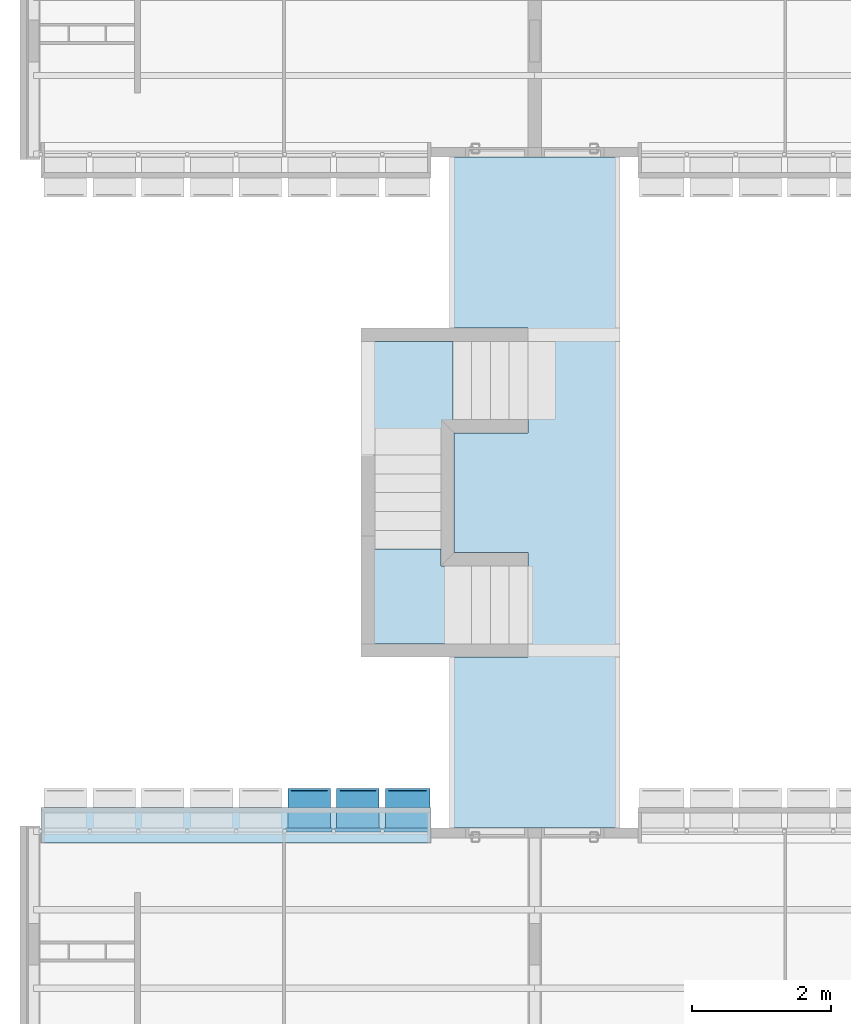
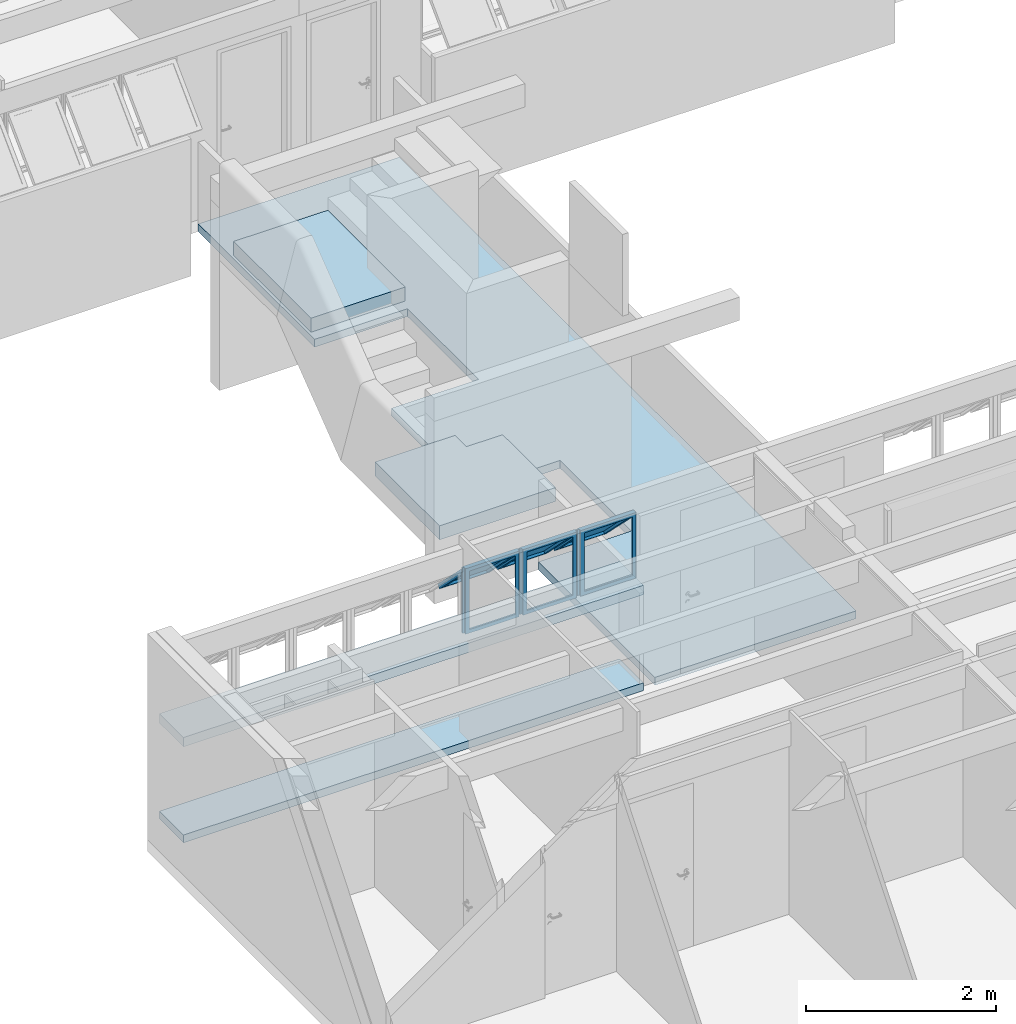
# One storey, part 8 of 41: 5 slabs, 3 plates, 1 element without a shape of its own.
"""IFC4 building model written with IfcOpenShell, lengths in millimetres."""

from ifc_helpers import new_model, entity, si_unit, converted_unit, derived_unit, direction, frame, origin_with_axes, place, context, subcontext, project, spatial, line, indexed_curve, outline, extrude, polygons, source, transform, mapped, material, layer, layer_set, layer_usage, constituent, constituent_set, type_object, element, aggregate, save


model = new_model("IFC4")

# Units and contexts
model_context = context("Model", 3, precision=0.01, world=origin_with_axes(), true_north=direction((0.0, 1.0)))
body_context = subcontext(model_context, "Body", "Model", "MODEL_VIEW")
ifc_project = project(units=[si_unit("LENGTHUNIT", "METRE", prefix="MILLI"), si_unit("AREAUNIT", "SQUARE_METRE"), si_unit("VOLUMEUNIT", "CUBIC_METRE"), converted_unit("PLANEANGLEUNIT", "DEGREE", entity("IfcPlaneAngleMeasure", 0.0174532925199), si_unit("PLANEANGLEUNIT", "RADIAN"), dimensions=[0, 0, 0, 0, 0, 0, 0]), converted_unit("TIMEUNIT", "Year", entity("IfcTimeMeasure", 31556926.0), si_unit("TIMEUNIT", "SECOND"), dimensions=[0, 0, 1, 0, 0, 0, 0]), si_unit("MASSUNIT", "GRAM", prefix="KILO"), si_unit("THERMODYNAMICTEMPERATUREUNIT", "DEGREE_CELSIUS"), si_unit("LUMINOUSINTENSITYUNIT", "LUMEN"), si_unit("ENERGYUNIT", "JOULE", prefix="MEGA"), derived_unit("THERMALCONDUCTANCEUNIT", [(si_unit("POWERUNIT", "WATT"), 1), (si_unit("LENGTHUNIT", "METRE"), -1), (si_unit("THERMODYNAMICTEMPERATUREUNIT", "KELVIN"), -1)]), derived_unit("SPECIFICHEATCAPACITYUNIT", [(si_unit("ENERGYUNIT", "JOULE"), 1), (si_unit("MASSUNIT", "GRAM", prefix="KILO"), -1), (si_unit("THERMODYNAMICTEMPERATUREUNIT", "KELVIN"), -1)]), derived_unit("MASSDENSITYUNIT", [(si_unit("MASSUNIT", "GRAM", prefix="KILO"), 1), (si_unit("VOLUMEUNIT", "CUBIC_METRE"), -1)])], contexts=[model_context])

# Site, building, storey
site_placement = place(None, origin_with_axes())
site = spatial("IfcSite", under=ifc_project, at=site_placement, Name="Local", CompositionType="ELEMENT")
building_placement = place(site_placement, origin_with_axes())
building = spatial("IfcBuilding", under=site, at=building_placement, Name="Construção", CompositionType="ELEMENT")
storey_placement = place(building_placement, frame((0.0, 0.0, 2650.0), z_axis=(0.0, 0.0, 1.0), x_axis=(1.0, 0.0, 0.0)))
storey = spatial("IfcBuildingStorey", under=building, at=storey_placement, Name="Segundo Pavimento", CompositionType="ELEMENT", Elevation=2650.0)

# Slabs
ifc_material_1 = material(Name="Concreto Armado Moldado in Loco - Estrutural")
ifc_layer_1 = layer(ifc_material_1, 180.0, ventilated="UNKNOWN", Name="Concreto Armado Moldado in Loco - Estrutural")
ifc_layer_set_1 = layer_set([ifc_layer_1], Name="Concreto Armado Moldado in Loco - Estrutural 180")
ifc_layer_usage_1 = layer_usage(ifc_layer_set_1, "AXIS3", "NEGATIVE", 180.0)
slab_type_1 = type_object("IfcSlabType", Name="Concreto Armado Moldado in Loco - Estrutural 180", PredefinedType="FLOOR")
slab_1_placement = place(storey_placement, frame((5065.0, 13620.0, 1710.57075871), z_axis=(0.0, 0.0, 1.0), x_axis=(1.0, 0.0, 0.0)))
element("IfcSlab", 1, at=slab_1_placement, inside=storey, type_object=slab_type_1, material=ifc_layer_usage_1, Name="CIRC2-LAJE-005", PredefinedType="FLOOR", context=body_context, shape_type="SweptSolid", body=[
    extrude(outline(indexed_curve([(0.0, 0.0), (1145.0, 0.0), (1145.0, 1630.0), (0.0, 1630.0)], segments=[line(1, 2, 3, 4, 1)])), frame((0.0, 0.0, -180.0), z_axis=(0.0, 0.0, 1.0), x_axis=(1.0, 0.0, 0.0)), (0.0, 0.0, 1.0), 180.0),
])
ifc_layer_usage_2 = layer_usage(ifc_layer_set_1, "AXIS3", "NEGATIVE", 180.0)
slab_2_placement = place(storey_placement, frame((5065.0, 10910.0, 680.0), z_axis=(0.0, 0.0, 1.0), x_axis=(1.0, 0.0, 0.0)))
element("IfcSlab", 2, at=slab_2_placement, inside=storey, type_object=slab_type_1, material=ifc_layer_usage_2, Name="CIRC2-LAJE-006", PredefinedType="FLOOR", context=body_context, shape_type="SweptSolid", body=[
    extrude(outline(indexed_curve([(0.0, 0.0), (1415.0, 0.0), (1415.0, 1120.0), (975.0, 1120.0), (975.0, 1360.0), (0.0, 1360.0)], segments=[line(1, 2, 3, 4, 5, 6, 1)])), frame((0.0, 0.0, -180.0), z_axis=(0.0, 0.0, 1.0), x_axis=(1.0, 0.0, 0.0)), (0.0, 0.0, 1.0), 180.0),
])
ifc_layer_2 = layer(ifc_material_1, 120.0, ventilated="UNKNOWN", Name="Concreto Armado Moldado in Loco - Estrutural")
ifc_layer_set_2 = layer_set([ifc_layer_2], Name="Concreto Armado Moldado in Loco - Estrutural 120")
ifc_layer_usage_3 = layer_usage(ifc_layer_set_2, "AXIS3", "NEGATIVE", 120.0)
slab_type_2 = type_object("IfcSlabType", Name="Concreto Armado Moldado in Loco - Estrutural 120", PredefinedType="FLOOR")
slab_3_placement = place(storey_placement, frame((300.0, 8564.99999866, 1355.0), z_axis=(0.0, 0.0, 1.0), x_axis=(1.0, 0.0, 0.0)))
element("IfcSlab", 3, at=slab_3_placement, inside=storey, type_object=slab_type_2, material=ifc_layer_usage_3, Name="APTO5-LAJE-003", PredefinedType="FLOOR", context=body_context, shape_type="SweptSolid", body=[
    extrude(outline(indexed_curve([(0.0, 0.0), (0.0, -510.0), (5600.0, -510.0), (5600.0, 0.0)], segments=[line(1, 2, 3, 4, 1)])), frame((0.0, 0.0, -120.0), z_axis=(0.0, 0.0, 1.0), x_axis=(1.0, 0.0, 0.0)), (0.0, 0.0, 1.0), 120.0),
])
ifc_layer_3 = layer(ifc_material_1, 100.0, ventilated="UNKNOWN", Name="Concreto Armado Moldado in Loco - Estrutural")
ifc_layer_set_3 = layer_set([ifc_layer_3], Name="Concreto Armado Moldado in Loco - Estrutural 100")
ifc_layer_usage_4 = layer_usage(ifc_layer_set_3, "AXIS3", "NEGATIVE", 100.0)
slab_type_3 = type_object("IfcSlabType", Name="Concreto Armado Moldado in Loco - Estrutural 100", PredefinedType="FLOOR")
slab_4_placement = place(storey_placement, frame((300.0, 8564.99999866, 100.0), z_axis=(0.0, 0.0, 1.0), x_axis=(1.0, 0.0, 0.0)))
element("IfcSlab", 4, at=slab_4_placement, inside=storey, type_object=slab_type_3, material=ifc_layer_usage_4, Name="APTO5-LAJE-004", PredefinedType="FLOOR", context=body_context, shape_type="SweptSolid", body=[
    extrude(outline(indexed_curve([(0.0, 0.0), (0.0, -510.0), (5600.0, -510.0), (5600.0, 0.0)], segments=[line(1, 2, 3, 4, 1)])), frame((0.0, 0.0, -100.0), z_axis=(0.0, 0.0, 1.0), x_axis=(1.0, 0.0, 0.0)), (0.0, 0.0, 1.0), 100.0),
])
ifc_layer_usage_5 = layer_usage(ifc_layer_set_3, "AXIS3", "NEGATIVE", 100.0)
slab_5_placement = place(storey_placement, frame((6229.99993205, 13940.0000635, -150.0), z_axis=(0.0, 0.0, 1.0), x_axis=(1.0, 0.0, 0.0)))
element("IfcSlab", 5, at=slab_5_placement, inside=storey, type_object=slab_type_3, material=ifc_layer_usage_5, Name="CIRC2-LAJE-007", PredefinedType="FLOOR", context=body_context, shape_type="SweptSolid", body=[
    extrude(outline(indexed_curve([(0.0, 0.0), (0.0, -1720.00012696), (1060.0001283, -1720.00012696), (1060.0001283, -3220.00011086), (-69.9999320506, -3220.00011086), (-69.9999320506, -5675.00006348), (2380.00006795, -5675.00006348), (2380.00006795, 3954.99993652), (-69.9999320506, 3954.99993652), (-69.9999320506, 1499.99998391), (1060.0001283, 1499.99998391), (1060.0001283, 1309.99988645), (1060.0001283, 0.0)], segments=[line(1, 2, 3, 4, 5, 6, 7, 8, 9, 10, 11, 12, 13, 1)])), origin_with_axes(), (0.0, 0.0, 1.0), 100.0),
])

# Window, plates
window_type = type_object("IfcWindowType", Name="Tipo de Parede Cortina", PartitioningType="NOTDEFINED", PredefinedType="NOTDEFINED")
window_placement = place(storey_placement, frame((2750.0, 8250.0, 1355.00007107), z_axis=(0.0, 0.0, 1.0), x_axis=(1.0, 0.0, 0.0)))
window = element("IfcWindow", 6, at=window_placement, inside=storey, type_object=window_type, Name="APTO5-JANELA-000", PredefinedType="NOTDEFINED")
ifc_material_2 = material(Name="Alumínio")
ifc_constituent_1 = constituent(ifc_material_2, Name="Alumínio")
ifc_material_3 = material(Name="Vidro")
ifc_constituent_2 = constituent(ifc_material_3, Name="Vidro")
ifc_constituent_set_1 = constituent_set(constituents=[ifc_constituent_1, ifc_constituent_2])
plate_type_1 = type_object("IfcPlateType", Name="Painel Principal 690 x 845 x 20", PredefinedType="CURTAIN_PANEL")
shared_shape_1 = source(origin_with_axes(), body_context, "Body", "Tessellation", [
    polygons([(-25.0000036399, 0.0, -40.0), (-25.0000036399, 0.0, -35.0), (-674.999997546, 0.0, -35.0), (-674.999997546, 0.0, -40.0), (-70.0000036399, 45.0, -40.0), (-70.0000036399, 45.0, -35.0), (-629.999997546, 45.0, -35.0), (-629.999997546, 45.0, -40.0)], [[[1, 2, 3, 4]], [[5, 6, 2, 1]], [[2, 6, 7, 3]], [[4, 3, 7, 8]], [[1, 4, 8, 5]], [[8, 7, 6, 5]]], closed=True),
    polygons([(-674.999997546, 0.0, -40.0), (-674.999997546, 0.0, -35.0), (-674.999997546, 844.999891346, -35.0), (-674.999997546, 844.999891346, -40.0), (-629.999997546, 45.0, -40.0), (-629.999997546, 45.0, -35.0), (-629.999997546, 799.999891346, -35.0), (-629.999997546, 799.999891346, -40.0)], [[[1, 2, 3, 4]], [[5, 6, 2, 1]], [[2, 6, 7, 3]], [[4, 3, 7, 8]], [[1, 4, 8, 5]], [[8, 7, 6, 5]]], closed=True),
    polygons([(-25.0000036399, 844.999891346, -40.0), (-25.0000036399, 844.999891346, -35.0), (-70.0000036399, 799.999891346, -35.0), (-70.0000036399, 799.999891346, -40.0), (-674.999997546, 844.999891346, -40.0), (-674.999997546, 844.999891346, -35.0), (-629.999997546, 799.999891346, -35.0), (-629.999997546, 799.999891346, -40.0)], [[[1, 2, 3, 4]], [[5, 6, 2, 1]], [[2, 6, 7, 3]], [[4, 3, 7, 8]], [[1, 4, 8, 5]], [[8, 7, 6, 5]]], closed=True),
    polygons([(-25.0000036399, 0.0, -40.0), (-25.0000036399, 0.0, -35.0), (-70.0000036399, 45.0, -35.0), (-70.0000036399, 45.0, -40.0), (-25.0000036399, 844.999891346, -40.0), (-25.0000036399, 844.999891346, -35.0), (-70.0000036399, 799.999891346, -35.0), (-70.0000036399, 799.999891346, -40.0)], [[[1, 2, 3, 4]], [[5, 6, 2, 1]], [[2, 6, 7, 3]], [[4, 3, 7, 8]], [[1, 4, 8, 5]], [[8, 7, 6, 5]]], closed=True),
    polygons([(-25.0000036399, 0.0, -35.0), (-25.0000036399, 0.0, 15.0), (-674.999997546, 0.0, 15.0), (-674.999997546, 0.0, -35.0), (-45.0000036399, 20.0, -35.0), (-45.0000036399, 20.0, 15.0), (-654.999997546, 20.0, 15.0), (-654.999997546, 20.0, -35.0)], [[[1, 2, 3, 4]], [[5, 6, 2, 1]], [[2, 6, 7, 3]], [[4, 3, 7, 8]], [[1, 4, 8, 5]], [[8, 7, 6, 5]]], closed=True),
    polygons([(-674.999997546, 0.0, -35.0), (-674.999997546, 0.0, 15.0), (-674.999997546, 844.999891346, 15.0), (-674.999997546, 844.999891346, -35.0), (-654.999997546, 20.0, -35.0), (-654.999997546, 20.0, 15.0), (-654.999997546, 824.999891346, 15.0), (-654.999997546, 824.999891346, -35.0)], [[[1, 2, 3, 4]], [[5, 6, 2, 1]], [[2, 6, 7, 3]], [[4, 3, 7, 8]], [[1, 4, 8, 5]], [[8, 7, 6, 5]]], closed=True),
    polygons([(-25.0000036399, 844.999891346, -35.0), (-25.0000036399, 844.999891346, 15.0), (-45.0000036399, 824.999891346, 15.0), (-45.0000036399, 824.999891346, -35.0), (-674.999997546, 844.999891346, -35.0), (-674.999997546, 844.999891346, 15.0), (-654.999997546, 824.999891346, 15.0), (-654.999997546, 824.999891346, -35.0)], [[[1, 2, 3, 4]], [[5, 6, 2, 1]], [[2, 6, 7, 3]], [[4, 3, 7, 8]], [[1, 4, 8, 5]], [[8, 7, 6, 5]]], closed=True),
    polygons([(-25.0000036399, 0.0, -35.0), (-25.0000036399, 0.0, 15.0), (-45.0000036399, 20.0, 15.0), (-45.0000036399, 20.0, -35.0), (-25.0000036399, 844.999891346, -35.0), (-25.0000036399, 844.999891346, 15.0), (-45.0000036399, 824.999891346, 15.0), (-45.0000036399, 824.999891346, -35.0)], [[[1, 2, 3, 4]], [[5, 6, 2, 1]], [[2, 6, 7, 3]], [[4, 3, 7, 8]], [[1, 4, 8, 5]], [[8, 7, 6, 5]]], closed=True),
    polygons([(-694.999995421, 0.0, -10.0), (-694.999995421, 0.0, 10.0), (-694.999995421, 844.999891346, 10.0), (-694.999995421, 844.999891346, -10.0), (-674.999997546, 0.0, -10.0), (-674.999997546, 0.0, 10.0), (-674.999997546, 844.999891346, 10.0), (-674.999997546, 844.999891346, -10.0)], [[[1, 2, 3, 4]], [[5, 6, 2, 1]], [[2, 6, 7, 3]], [[4, 3, 7, 8]], [[1, 4, 8, 5]], [[8, 7, 6, 5]]], closed=True),
    polygons([(-5.00000576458, 844.999891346, -10.0), (-5.00000576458, 844.999891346, 10.0), (-5.00000576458, 0.0, 10.0), (-5.00000576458, 0.0, -10.0), (-25.0000036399, 844.999891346, -10.0), (-25.0000036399, 844.999891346, 10.0), (-25.0000036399, 0.0, 10.0), (-25.0000036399, 0.0, -10.0)], [[[1, 2, 3, 4]], [[5, 6, 2, 1]], [[2, 6, 7, 3]], [[4, 3, 7, 8]], [[1, 4, 8, 5]], [[8, 7, 6, 5]]], closed=True),
    polygons([(-90.0000036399, 252.243475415, 517.045737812), (-90.0000036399, 291.13434838, 555.936610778), (-90.0000036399, 796.715620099, 50.3553390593), (-90.0000036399, 757.824747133, 11.4644660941), (-45.0000036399, 220.423670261, 548.865542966), (-45.0000036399, 259.314543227, 587.756415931), (-45.0000036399, 828.535425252, 18.5355339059), (-45.0000036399, 789.644552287, -20.3553390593)], [[[1, 2, 3, 4]], [[5, 6, 2, 1]], [[2, 6, 7, 3]], [[4, 3, 7, 8]], [[1, 4, 8, 5]], [[8, 7, 6, 5]]], closed=True),
    polygons([(-654.999997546, 220.423670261, 548.865542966), (-654.999997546, 259.314543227, 587.756415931), (-654.999997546, 828.535425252, 18.5355339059), (-654.999997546, 789.644552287, -20.3553390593), (-609.999997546, 252.243475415, 517.045737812), (-609.999997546, 291.13434838, 555.936610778), (-609.999997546, 796.715620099, 50.3553390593), (-609.999997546, 757.824747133, 11.4644660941)], [[[1, 2, 3, 4]], [[5, 6, 2, 1]], [[2, 6, 7, 3]], [[4, 3, 7, 8]], [[1, 4, 8, 5]], [[8, 7, 6, 5]]], closed=True),
    polygons([(-654.999997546, 220.423670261, 548.865542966), (-654.999997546, 259.314543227, 587.756415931), (-609.999997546, 291.13434838, 555.936610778), (-609.999997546, 252.243475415, 517.045737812), (-45.0000036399, 220.423670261, 548.865542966), (-45.0000036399, 259.314543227, 587.756415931), (-90.0000036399, 291.13434838, 555.936610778), (-90.0000036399, 252.243475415, 517.045737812)], [[[1, 2, 3, 4]], [[5, 6, 2, 1]], [[2, 6, 7, 3]], [[4, 3, 7, 8]], [[1, 4, 8, 5]], [[8, 7, 6, 5]]], closed=True),
    polygons([(-45.0000036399, 789.644552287, -20.3553390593), (-45.0000036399, 828.535425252, 18.5355339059), (-90.0000036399, 796.715620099, 50.3553390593), (-90.0000036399, 757.824747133, 11.4644660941), (-654.999997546, 789.644552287, -20.3553390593), (-654.999997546, 828.535425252, 18.5355339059), (-609.999997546, 796.715620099, 50.3553390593), (-609.999997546, 757.824747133, 11.4644660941)], [[[1, 2, 3, 4]], [[5, 6, 2, 1]], [[2, 6, 7, 3]], [[4, 3, 7, 8]], [[1, 4, 8, 5]], [[8, 7, 6, 5]]], closed=True),
    polygons([(-90.0000036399, 272.749572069, 537.551834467), (-90.0000036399, 284.063280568, 548.865542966), (-609.999997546, 284.063280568, 548.865542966), (-609.999997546, 272.749572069, 537.551834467), (-90.0000036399, 778.330843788, 31.9705627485), (-90.0000036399, 789.644552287, 43.2842712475), (-609.999997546, 789.644552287, 43.2842712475), (-609.999997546, 778.330843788, 31.9705627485)], [[[1, 2, 3, 4]], [[5, 6, 2, 1]], [[2, 6, 7, 3]], [[4, 3, 7, 8]], [[1, 4, 8, 5]], [[8, 7, 6, 5]]], closed=True),
])
plate_1_placement = place(window_placement, frame((2100.0, 0.0, 422.499964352), z_axis=(0.0, 0.0, 1.0), x_axis=(-1.0, 0.0, 0.0)))
plate_1 = element("IfcPlate", 7, at=plate_1_placement, type_object=plate_type_1, material=ifc_constituent_set_1, Name="APTO5-Painel-Prin-029", PredefinedType="CURTAIN_PANEL", context=body_context, shape_type="MappedRepresentation", body=[
    mapped(shared_shape_1, transform((350.0, 0.0, -422.499964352), x_axis=(1.0, 0.0, 0.0), y_axis=(0.0, 0.0, 1.0), z_axis=(0.0, -1.0, 0.0))),
])
ifc_constituent_3 = constituent(ifc_material_2, Name="Alumínio")
ifc_constituent_4 = constituent(ifc_material_3, Name="Vidro")
ifc_constituent_set_2 = constituent_set(constituents=[ifc_constituent_3, ifc_constituent_4])
shared_shape_2 = source(origin_with_axes(), body_context, "Body", "Tessellation", [
    polygons([(-25.0000036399, 0.0, -40.0), (-25.0000036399, 0.0, -35.0), (-674.999997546, 0.0, -35.0), (-674.999997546, 0.0, -40.0), (-70.0000036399, 45.0, -40.0), (-70.0000036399, 45.0, -35.0), (-629.999997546, 45.0, -35.0), (-629.999997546, 45.0, -40.0)], [[[1, 2, 3, 4]], [[5, 6, 2, 1]], [[2, 6, 7, 3]], [[4, 3, 7, 8]], [[1, 4, 8, 5]], [[8, 7, 6, 5]]], closed=True),
    polygons([(-674.999997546, 0.0, -40.0), (-674.999997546, 0.0, -35.0), (-674.999997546, 844.999891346, -35.0), (-674.999997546, 844.999891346, -40.0), (-629.999997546, 45.0, -40.0), (-629.999997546, 45.0, -35.0), (-629.999997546, 799.999891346, -35.0), (-629.999997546, 799.999891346, -40.0)], [[[1, 2, 3, 4]], [[5, 6, 2, 1]], [[2, 6, 7, 3]], [[4, 3, 7, 8]], [[1, 4, 8, 5]], [[8, 7, 6, 5]]], closed=True),
    polygons([(-25.0000036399, 844.999891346, -40.0), (-25.0000036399, 844.999891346, -35.0), (-70.0000036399, 799.999891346, -35.0), (-70.0000036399, 799.999891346, -40.0), (-674.999997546, 844.999891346, -40.0), (-674.999997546, 844.999891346, -35.0), (-629.999997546, 799.999891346, -35.0), (-629.999997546, 799.999891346, -40.0)], [[[1, 2, 3, 4]], [[5, 6, 2, 1]], [[2, 6, 7, 3]], [[4, 3, 7, 8]], [[1, 4, 8, 5]], [[8, 7, 6, 5]]], closed=True),
    polygons([(-25.0000036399, 0.0, -40.0), (-25.0000036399, 0.0, -35.0), (-70.0000036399, 45.0, -35.0), (-70.0000036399, 45.0, -40.0), (-25.0000036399, 844.999891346, -40.0), (-25.0000036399, 844.999891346, -35.0), (-70.0000036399, 799.999891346, -35.0), (-70.0000036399, 799.999891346, -40.0)], [[[1, 2, 3, 4]], [[5, 6, 2, 1]], [[2, 6, 7, 3]], [[4, 3, 7, 8]], [[1, 4, 8, 5]], [[8, 7, 6, 5]]], closed=True),
    polygons([(-25.0000036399, 0.0, -35.0), (-25.0000036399, 0.0, 15.0), (-674.999997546, 0.0, 15.0), (-674.999997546, 0.0, -35.0), (-45.0000036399, 20.0, -35.0), (-45.0000036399, 20.0, 15.0), (-654.999997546, 20.0, 15.0), (-654.999997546, 20.0, -35.0)], [[[1, 2, 3, 4]], [[5, 6, 2, 1]], [[2, 6, 7, 3]], [[4, 3, 7, 8]], [[1, 4, 8, 5]], [[8, 7, 6, 5]]], closed=True),
    polygons([(-674.999997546, 0.0, -35.0), (-674.999997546, 0.0, 15.0), (-674.999997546, 844.999891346, 15.0), (-674.999997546, 844.999891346, -35.0), (-654.999997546, 20.0, -35.0), (-654.999997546, 20.0, 15.0), (-654.999997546, 824.999891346, 15.0), (-654.999997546, 824.999891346, -35.0)], [[[1, 2, 3, 4]], [[5, 6, 2, 1]], [[2, 6, 7, 3]], [[4, 3, 7, 8]], [[1, 4, 8, 5]], [[8, 7, 6, 5]]], closed=True),
    polygons([(-25.0000036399, 844.999891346, -35.0), (-25.0000036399, 844.999891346, 15.0), (-45.0000036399, 824.999891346, 15.0), (-45.0000036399, 824.999891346, -35.0), (-674.999997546, 844.999891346, -35.0), (-674.999997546, 844.999891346, 15.0), (-654.999997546, 824.999891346, 15.0), (-654.999997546, 824.999891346, -35.0)], [[[1, 2, 3, 4]], [[5, 6, 2, 1]], [[2, 6, 7, 3]], [[4, 3, 7, 8]], [[1, 4, 8, 5]], [[8, 7, 6, 5]]], closed=True),
    polygons([(-25.0000036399, 0.0, -35.0), (-25.0000036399, 0.0, 15.0), (-45.0000036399, 20.0, 15.0), (-45.0000036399, 20.0, -35.0), (-25.0000036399, 844.999891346, -35.0), (-25.0000036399, 844.999891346, 15.0), (-45.0000036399, 824.999891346, 15.0), (-45.0000036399, 824.999891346, -35.0)], [[[1, 2, 3, 4]], [[5, 6, 2, 1]], [[2, 6, 7, 3]], [[4, 3, 7, 8]], [[1, 4, 8, 5]], [[8, 7, 6, 5]]], closed=True),
    polygons([(-694.999995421, 0.0, -10.0), (-694.999995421, 0.0, 10.0), (-694.999995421, 844.999891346, 10.0), (-694.999995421, 844.999891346, -10.0), (-674.999997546, 0.0, -10.0), (-674.999997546, 0.0, 10.0), (-674.999997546, 844.999891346, 10.0), (-674.999997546, 844.999891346, -10.0)], [[[1, 2, 3, 4]], [[5, 6, 2, 1]], [[2, 6, 7, 3]], [[4, 3, 7, 8]], [[1, 4, 8, 5]], [[8, 7, 6, 5]]], closed=True),
    polygons([(-5.00000576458, 844.999891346, -10.0), (-5.00000576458, 844.999891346, 10.0), (-5.00000576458, 0.0, 10.0), (-5.00000576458, 0.0, -10.0), (-25.0000036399, 844.999891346, -10.0), (-25.0000036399, 844.999891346, 10.0), (-25.0000036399, 0.0, 10.0), (-25.0000036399, 0.0, -10.0)], [[[1, 2, 3, 4]], [[5, 6, 2, 1]], [[2, 6, 7, 3]], [[4, 3, 7, 8]], [[1, 4, 8, 5]], [[8, 7, 6, 5]]], closed=True),
    polygons([(-90.0000036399, 252.243475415, 517.045737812), (-90.0000036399, 291.13434838, 555.936610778), (-90.0000036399, 796.715620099, 50.3553390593), (-90.0000036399, 757.824747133, 11.4644660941), (-45.0000036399, 220.423670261, 548.865542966), (-45.0000036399, 259.314543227, 587.756415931), (-45.0000036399, 828.535425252, 18.5355339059), (-45.0000036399, 789.644552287, -20.3553390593)], [[[1, 2, 3, 4]], [[5, 6, 2, 1]], [[2, 6, 7, 3]], [[4, 3, 7, 8]], [[1, 4, 8, 5]], [[8, 7, 6, 5]]], closed=True),
    polygons([(-654.999997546, 220.423670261, 548.865542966), (-654.999997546, 259.314543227, 587.756415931), (-654.999997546, 828.535425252, 18.5355339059), (-654.999997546, 789.644552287, -20.3553390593), (-609.999997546, 252.243475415, 517.045737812), (-609.999997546, 291.13434838, 555.936610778), (-609.999997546, 796.715620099, 50.3553390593), (-609.999997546, 757.824747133, 11.4644660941)], [[[1, 2, 3, 4]], [[5, 6, 2, 1]], [[2, 6, 7, 3]], [[4, 3, 7, 8]], [[1, 4, 8, 5]], [[8, 7, 6, 5]]], closed=True),
    polygons([(-654.999997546, 220.423670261, 548.865542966), (-654.999997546, 259.314543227, 587.756415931), (-609.999997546, 291.13434838, 555.936610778), (-609.999997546, 252.243475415, 517.045737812), (-45.0000036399, 220.423670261, 548.865542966), (-45.0000036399, 259.314543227, 587.756415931), (-90.0000036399, 291.13434838, 555.936610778), (-90.0000036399, 252.243475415, 517.045737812)], [[[1, 2, 3, 4]], [[5, 6, 2, 1]], [[2, 6, 7, 3]], [[4, 3, 7, 8]], [[1, 4, 8, 5]], [[8, 7, 6, 5]]], closed=True),
    polygons([(-45.0000036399, 789.644552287, -20.3553390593), (-45.0000036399, 828.535425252, 18.5355339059), (-90.0000036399, 796.715620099, 50.3553390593), (-90.0000036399, 757.824747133, 11.4644660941), (-654.999997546, 789.644552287, -20.3553390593), (-654.999997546, 828.535425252, 18.5355339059), (-609.999997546, 796.715620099, 50.3553390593), (-609.999997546, 757.824747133, 11.4644660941)], [[[1, 2, 3, 4]], [[5, 6, 2, 1]], [[2, 6, 7, 3]], [[4, 3, 7, 8]], [[1, 4, 8, 5]], [[8, 7, 6, 5]]], closed=True),
    polygons([(-90.0000036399, 272.749572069, 537.551834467), (-90.0000036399, 284.063280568, 548.865542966), (-609.999997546, 284.063280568, 548.865542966), (-609.999997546, 272.749572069, 537.551834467), (-90.0000036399, 778.330843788, 31.9705627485), (-90.0000036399, 789.644552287, 43.2842712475), (-609.999997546, 789.644552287, 43.2842712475), (-609.999997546, 778.330843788, 31.9705627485)], [[[1, 2, 3, 4]], [[5, 6, 2, 1]], [[2, 6, 7, 3]], [[4, 3, 7, 8]], [[1, 4, 8, 5]], [[8, 7, 6, 5]]], closed=True),
])
plate_2_placement = place(window_placement, frame((1400.0, 0.0, 422.499964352), z_axis=(0.0, 0.0, 1.0), x_axis=(-1.0, 0.0, 0.0)))
plate_2 = element("IfcPlate", 8, at=plate_2_placement, type_object=plate_type_1, material=ifc_constituent_set_2, Name="APTO5-Painel-Prin-025", PredefinedType="CURTAIN_PANEL", context=body_context, shape_type="MappedRepresentation", body=[
    mapped(shared_shape_2, transform((350.0, 0.0, -422.499964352), x_axis=(1.0, 0.0, 0.0), y_axis=(0.0, 0.0, 1.0), z_axis=(0.0, -1.0, 0.0))),
])
ifc_constituent_5 = constituent(ifc_material_2, Name="Alumínio")
ifc_constituent_6 = constituent(ifc_material_3, Name="Vidro")
ifc_constituent_set_3 = constituent_set(constituents=[ifc_constituent_5, ifc_constituent_6])
plate_type_2 = type_object("IfcPlateType", Name="Painel Principal 695 x 845 x 20", PredefinedType="CURTAIN_PANEL")
shared_shape_3 = source(origin_with_axes(), body_context, "Body", "Tessellation", [
    polygons([(-25.0000062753, 0.0, -40.0), (-25.0000062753, 0.0, -35.0), (-699.999999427, 0.0, -35.0), (-699.999999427, 0.0, -40.0), (-70.0000062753, 45.0, -40.0), (-70.0000062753, 45.0, -35.0), (-654.999999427, 45.0, -35.0), (-654.999999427, 45.0, -40.0)], [[[1, 2, 3, 4]], [[5, 6, 2, 1]], [[2, 6, 7, 3]], [[4, 3, 7, 8]], [[1, 4, 8, 5]], [[8, 7, 6, 5]]], closed=True),
    polygons([(-699.999999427, 0.0, -40.0), (-699.999999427, 0.0, -35.0), (-699.999999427, 844.999980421, -35.0), (-699.999999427, 844.999980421, -40.0), (-654.999999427, 45.0, -40.0), (-654.999999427, 45.0, -35.0), (-654.999999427, 799.999980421, -35.0), (-654.999999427, 799.999980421, -40.0)], [[[1, 2, 3, 4]], [[5, 6, 2, 1]], [[2, 6, 7, 3]], [[4, 3, 7, 8]], [[1, 4, 8, 5]], [[8, 7, 6, 5]]], closed=True),
    polygons([(-25.0000062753, 844.999980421, -40.0), (-25.0000062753, 844.999980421, -35.0), (-70.0000062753, 799.999980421, -35.0), (-70.0000062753, 799.999980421, -40.0), (-699.999999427, 844.999980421, -40.0), (-699.999999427, 844.999980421, -35.0), (-654.999999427, 799.999980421, -35.0), (-654.999999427, 799.999980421, -40.0)], [[[1, 2, 3, 4]], [[5, 6, 2, 1]], [[2, 6, 7, 3]], [[4, 3, 7, 8]], [[1, 4, 8, 5]], [[8, 7, 6, 5]]], closed=True),
    polygons([(-25.0000062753, 0.0, -40.0), (-25.0000062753, 0.0, -35.0), (-70.0000062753, 45.0, -35.0), (-70.0000062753, 45.0, -40.0), (-25.0000062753, 844.999980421, -40.0), (-25.0000062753, 844.999980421, -35.0), (-70.0000062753, 799.999980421, -35.0), (-70.0000062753, 799.999980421, -40.0)], [[[1, 2, 3, 4]], [[5, 6, 2, 1]], [[2, 6, 7, 3]], [[4, 3, 7, 8]], [[1, 4, 8, 5]], [[8, 7, 6, 5]]], closed=True),
    polygons([(-25.0000062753, 0.0, -35.0), (-25.0000062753, 0.0, 15.0), (-699.999999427, 0.0, 15.0), (-699.999999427, 0.0, -35.0), (-45.0000062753, 20.0, -35.0), (-45.0000062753, 20.0, 15.0), (-679.999999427, 20.0, 15.0), (-679.999999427, 20.0, -35.0)], [[[1, 2, 3, 4]], [[5, 6, 2, 1]], [[2, 6, 7, 3]], [[4, 3, 7, 8]], [[1, 4, 8, 5]], [[8, 7, 6, 5]]], closed=True),
    polygons([(-699.999999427, 0.0, -35.0), (-699.999999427, 0.0, 15.0), (-699.999999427, 844.999980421, 15.0), (-699.999999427, 844.999980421, -35.0), (-679.999999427, 20.0, -35.0), (-679.999999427, 20.0, 15.0), (-679.999999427, 824.999980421, 15.0), (-679.999999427, 824.999980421, -35.0)], [[[1, 2, 3, 4]], [[5, 6, 2, 1]], [[2, 6, 7, 3]], [[4, 3, 7, 8]], [[1, 4, 8, 5]], [[8, 7, 6, 5]]], closed=True),
    polygons([(-25.0000062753, 844.999980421, -35.0), (-25.0000062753, 844.999980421, 15.0), (-45.0000062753, 824.999980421, 15.0), (-45.0000062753, 824.999980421, -35.0), (-699.999999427, 844.999980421, -35.0), (-699.999999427, 844.999980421, 15.0), (-679.999999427, 824.999980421, 15.0), (-679.999999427, 824.999980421, -35.0)], [[[1, 2, 3, 4]], [[5, 6, 2, 1]], [[2, 6, 7, 3]], [[4, 3, 7, 8]], [[1, 4, 8, 5]], [[8, 7, 6, 5]]], closed=True),
    polygons([(-25.0000062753, 0.0, -35.0), (-25.0000062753, 0.0, 15.0), (-45.0000062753, 20.0, 15.0), (-45.0000062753, 20.0, -35.0), (-25.0000062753, 844.999980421, -35.0), (-25.0000062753, 844.999980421, 15.0), (-45.0000062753, 824.999980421, 15.0), (-45.0000062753, 824.999980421, -35.0)], [[[1, 2, 3, 4]], [[5, 6, 2, 1]], [[2, 6, 7, 3]], [[4, 3, 7, 8]], [[1, 4, 8, 5]], [[8, 7, 6, 5]]], closed=True),
    polygons([(-5.00000629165, 844.999980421, -10.0), (-5.00000629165, 844.999980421, 10.0), (-5.00000629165, 0.0, 10.0), (-5.00000629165, 0.0, -10.0), (-25.0000062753, 844.999980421, -10.0), (-25.0000062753, 844.999980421, 10.0), (-25.0000062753, 0.0, 10.0), (-25.0000062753, 0.0, -10.0)], [[[1, 2, 3, 4]], [[5, 6, 2, 1]], [[2, 6, 7, 3]], [[4, 3, 7, 8]], [[1, 4, 8, 5]], [[8, 7, 6, 5]]], closed=True),
    polygons([(-90.0000062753, 252.243501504, 517.045800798), (-90.0000062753, 291.134374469, 555.936673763), (-90.0000062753, 796.715709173, 50.3553390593), (-90.0000062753, 757.824836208, 11.4644660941), (-45.0000062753, 220.423696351, 548.865605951), (-45.0000062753, 259.314569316, 587.756478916), (-45.0000062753, 828.535514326, 18.5355339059), (-45.0000062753, 789.644641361, -20.3553390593)], [[[1, 2, 3, 4]], [[5, 6, 2, 1]], [[2, 6, 7, 3]], [[4, 3, 7, 8]], [[1, 4, 8, 5]], [[8, 7, 6, 5]]], closed=True),
    polygons([(-679.999999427, 220.423696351, 548.865605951), (-679.999999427, 259.314569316, 587.756478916), (-679.999999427, 828.535514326, 18.5355339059), (-679.999999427, 789.644641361, -20.3553390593), (-634.999999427, 252.243501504, 517.045800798), (-634.999999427, 291.134374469, 555.936673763), (-634.999999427, 796.715709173, 50.3553390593), (-634.999999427, 757.824836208, 11.4644660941)], [[[1, 2, 3, 4]], [[5, 6, 2, 1]], [[2, 6, 7, 3]], [[4, 3, 7, 8]], [[1, 4, 8, 5]], [[8, 7, 6, 5]]], closed=True),
    polygons([(-679.999999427, 220.423696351, 548.865605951), (-679.999999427, 259.314569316, 587.756478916), (-634.999999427, 291.134374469, 555.936673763), (-634.999999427, 252.243501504, 517.045800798), (-45.0000062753, 220.423696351, 548.865605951), (-45.0000062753, 259.314569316, 587.756478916), (-90.0000062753, 291.134374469, 555.936673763), (-90.0000062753, 252.243501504, 517.045800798)], [[[1, 2, 3, 4]], [[5, 6, 2, 1]], [[2, 6, 7, 3]], [[4, 3, 7, 8]], [[1, 4, 8, 5]], [[8, 7, 6, 5]]], closed=True),
    polygons([(-45.0000062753, 789.644641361, -20.3553390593), (-45.0000062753, 828.535514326, 18.5355339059), (-90.0000062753, 796.715709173, 50.3553390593), (-90.0000062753, 757.824836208, 11.4644660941), (-679.999999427, 789.644641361, -20.3553390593), (-679.999999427, 828.535514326, 18.5355339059), (-634.999999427, 796.715709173, 50.3553390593), (-634.999999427, 757.824836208, 11.4644660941)], [[[1, 2, 3, 4]], [[5, 6, 2, 1]], [[2, 6, 7, 3]], [[4, 3, 7, 8]], [[1, 4, 8, 5]], [[8, 7, 6, 5]]], closed=True),
    polygons([(-90.0000062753, 272.749598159, 537.551897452), (-90.0000062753, 284.063306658, 548.865605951), (-634.999999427, 284.063306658, 548.865605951), (-634.999999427, 272.749598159, 537.551897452), (-90.0000062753, 778.330932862, 31.9705627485), (-90.0000062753, 789.644641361, 43.2842712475), (-634.999999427, 789.644641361, 43.2842712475), (-634.999999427, 778.330932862, 31.9705627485)], [[[1, 2, 3, 4]], [[5, 6, 2, 1]], [[2, 6, 7, 3]], [[4, 3, 7, 8]], [[1, 4, 8, 5]], [[8, 7, 6, 5]]], closed=True),
])
plate_3_placement = place(window_placement, frame((2800.0, 0.0, 422.499986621), z_axis=(0.0, 0.0, 1.0), x_axis=(-1.0, 0.0, 0.0)))
plate_3 = element("IfcPlate", 9, at=plate_3_placement, type_object=plate_type_2, material=ifc_constituent_set_3, Name="APTO5-Painel-Prin-020", PredefinedType="CURTAIN_PANEL", context=body_context, shape_type="MappedRepresentation", body=[
    mapped(shared_shape_3, transform((350.0, 0.0, -422.499986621), x_axis=(1.0, 0.0, 0.0), y_axis=(0.0, 0.0, 1.0), z_axis=(0.0, -1.0, 0.0))),
])
aggregate(window, [plate_1, plate_2, plate_3])

save(model, "model.ifc")
